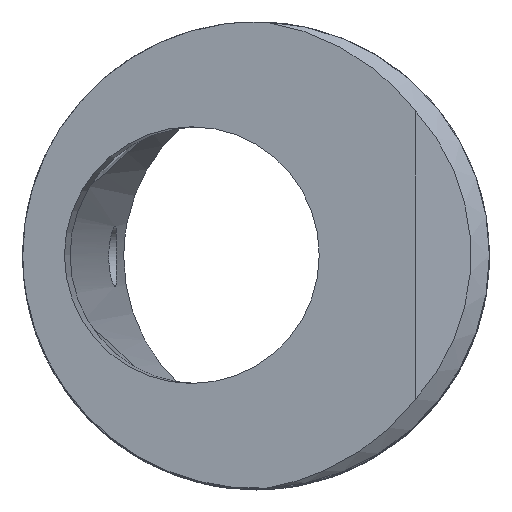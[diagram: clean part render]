
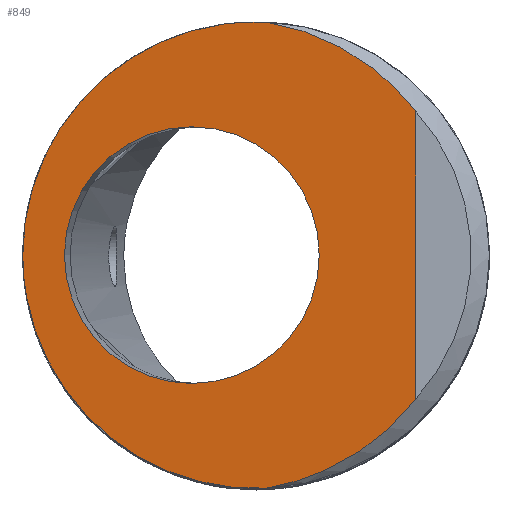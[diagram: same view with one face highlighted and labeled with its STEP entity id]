
A CAD part, top view. The second image highlights one B-rep face of the part: STEP entity #849.
In plain terms, the highlighted planar face has unit normal (-0.122, 0, 0.993).
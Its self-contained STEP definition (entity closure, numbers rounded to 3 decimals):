
#22=FACE_BOUND('',#201,.T.);
#59=LINE('',#3724,#77);
#77=VECTOR('',#1076,10.);
#84=PLANE('',#933);
#97=ELLIPSE('',#918,12.821,12.725);
#98=ELLIPSE('',#920,12.821,12.725);
#99=ELLIPSE('',#934,13.087,12.891);
#100=ELLIPSE('',#935,13.087,12.891);
#146=FACE_OUTER_BOUND('',#200,.T.);
#200=EDGE_LOOP('',(#765,#766,#767,#768,#769));
#201=EDGE_LOOP('',(#770));
#228=CIRCLE('',#936,7.);
#375=VERTEX_POINT('',#3062);
#376=VERTEX_POINT('',#3064);
#377=VERTEX_POINT('',#3066);
#394=VERTEX_POINT('',#3720);
#395=VERTEX_POINT('',#3722);
#396=VERTEX_POINT('',#3725);
#487=EDGE_CURVE('',#375,#376,#97,.T.);
#489=EDGE_CURVE('',#377,#375,#98,.T.);
#522=EDGE_CURVE('',#376,#394,#99,.T.);
#523=EDGE_CURVE('',#395,#377,#100,.T.);
#524=EDGE_CURVE('',#394,#395,#59,.T.);
#525=EDGE_CURVE('',#396,#396,#228,.T.);
#765=ORIENTED_EDGE('',*,*,#522,.F.);
#766=ORIENTED_EDGE('',*,*,#487,.F.);
#767=ORIENTED_EDGE('',*,*,#489,.F.);
#768=ORIENTED_EDGE('',*,*,#523,.F.);
#769=ORIENTED_EDGE('',*,*,#524,.F.);
#770=ORIENTED_EDGE('',*,*,#525,.F.);
#849=ADVANCED_FACE('',(#146,#22),#84,.F.);
#918=AXIS2_PLACEMENT_3D('',#3065,#1035,#1036);
#920=AXIS2_PLACEMENT_3D('',#3068,#1039,#1040);
#933=AXIS2_PLACEMENT_3D('',#3719,#1070,#1071);
#934=AXIS2_PLACEMENT_3D('',#3721,#1072,#1073);
#935=AXIS2_PLACEMENT_3D('',#3723,#1074,#1075);
#936=AXIS2_PLACEMENT_3D('',#3726,#1077,#1078);
#1035=DIRECTION('center_axis',(0.122,0.,-0.993));
#1036=DIRECTION('ref_axis',(0.993,0.,0.122));
#1039=DIRECTION('center_axis',(0.122,0.,-0.993));
#1040=DIRECTION('ref_axis',(0.993,0.,0.122));
#1070=DIRECTION('center_axis',(0.122,0.,-0.993));
#1071=DIRECTION('ref_axis',(-0.993,0.,-0.122));
#1072=DIRECTION('center_axis',(0.122,0.,-0.993));
#1073=DIRECTION('ref_axis',(-0.993,0.,-0.122));
#1074=DIRECTION('center_axis',(0.122,0.,-0.993));
#1075=DIRECTION('ref_axis',(-0.993,0.,-0.122));
#1076=DIRECTION('',(0.,-1.,0.));
#1077=DIRECTION('center_axis',(-0.122,0.,
0.993));
#1078=DIRECTION('ref_axis',(0.993,0.,0.122));
#3062=CARTESIAN_POINT('',(34.025,0.,47.369));
#3064=CARTESIAN_POINT('',(47.306,12.713,49.));
#3065=CARTESIAN_POINT('Origin',(46.75,0.,48.932));
#3066=CARTESIAN_POINT('',(47.306,-12.713,49.));
#3068=CARTESIAN_POINT('Origin',(46.75,0.,48.932));
#3719=CARTESIAN_POINT('Origin',(52.777,0.,
49.672));
#3720=CARTESIAN_POINT('',(55.45,7.861,50.));
#3721=CARTESIAN_POINT('Origin',(45.155,0.,
48.736));
#3722=CARTESIAN_POINT('',(55.45,-7.861,50.));
#3723=CARTESIAN_POINT('Origin',(45.155,0.,
48.736));
#3724=CARTESIAN_POINT('',(55.45,0.,50.));
#3725=CARTESIAN_POINT('',(36.301,0.,47.649));
#3726=CARTESIAN_POINT('Origin',(43.249,0.,48.502));
